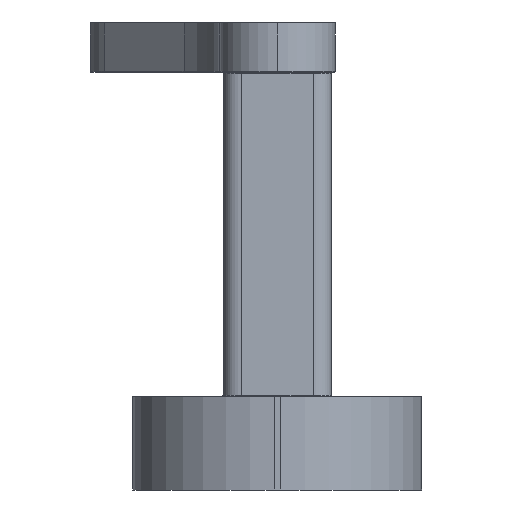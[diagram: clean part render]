
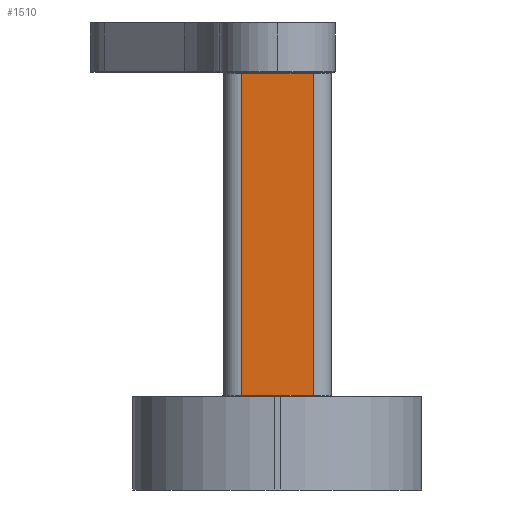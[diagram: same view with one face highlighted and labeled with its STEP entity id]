
A CAD part, left-side view. The second image highlights one B-rep face of the part: STEP entity #1510.
In plain terms, the highlighted planar face has unit normal (-1, 0, 0).
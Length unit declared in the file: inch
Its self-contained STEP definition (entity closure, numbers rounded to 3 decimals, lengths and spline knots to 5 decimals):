
#24 = CARTESIAN_POINT ( 'NONE',  ( -0.3937, -0.15453, 0.40945 ) ) ;
#315 = AXIS2_PLACEMENT_3D ( 'NONE', #1201, #1710, #2202 ) ;
#327 = CARTESIAN_POINT ( 'NONE',  ( -0.3937, -0.15453, 1.79921 ) ) ;
#461 = VECTOR ( 'NONE', #1719, 39.37008 ) ;
#533 = LINE ( 'NONE', #24, #968 ) ;
#558 = VERTEX_POINT ( 'NONE', #1492 ) ;
#590 = EDGE_CURVE ( 'NONE', #558, #1700, #1724, .T. ) ;
#619 = EDGE_LOOP ( 'NONE', ( #2100, #1651, #924, #1845 ) ) ;
#684 = LINE ( 'NONE', #1515, #1251 ) ;
#862 = CARTESIAN_POINT ( 'NONE',  ( -0.3937, -0.15453, 0.40945 ) ) ;
#873 = CARTESIAN_POINT ( 'NONE',  ( -0.3937, 0.15453, 0.40945 ) ) ;
#883 = DIRECTION ( 'NONE',  ( 0., -1., 0. ) ) ;
#924 = ORIENTED_EDGE ( 'NONE', *, *, #1690, .F. ) ;
#968 = VECTOR ( 'NONE', #883, 39.37008 ) ;
#1013 = DIRECTION ( 'NONE',  ( 0., 0., -1. ) ) ;
#1174 = FACE_OUTER_BOUND ( 'NONE', #619, .T. ) ;
#1201 = CARTESIAN_POINT ( 'NONE',  ( -0.3937, -0.15453, 1.80315 ) ) ;
#1207 = CARTESIAN_POINT ( 'NONE',  ( -0.3937, 0.15453, 1.80315 ) ) ;
#1251 = VECTOR ( 'NONE', #1335, 39.37008 ) ;
#1335 = DIRECTION ( 'NONE',  ( 0., 1., 0. ) ) ;
#1492 = CARTESIAN_POINT ( 'NONE',  ( -0.3937, 0.15453, 1.79921 ) ) ;
#1510 = ADVANCED_FACE ( 'NONE', ( #1174 ), #1672, .F. ) ;
#1515 = CARTESIAN_POINT ( 'NONE',  ( -0.3937, 0.15453, 1.79921 ) ) ;
#1599 = EDGE_CURVE ( 'NONE', #1628, #558, #684, .T. ) ;
#1628 = VERTEX_POINT ( 'NONE', #327 ) ;
#1651 = ORIENTED_EDGE ( 'NONE', *, *, #1768, .T. ) ;
#1672 = PLANE ( 'NONE',  #315 ) ;
#1680 = VERTEX_POINT ( 'NONE', #862 ) ;
#1690 = EDGE_CURVE ( 'NONE', #1628, #1680, #1889, .T. ) ;
#1700 = VERTEX_POINT ( 'NONE', #873 ) ;
#1710 = DIRECTION ( 'NONE',  ( 1., 0., 0. ) ) ;
#1719 = DIRECTION ( 'NONE',  ( 0., 0., -1. ) ) ;
#1724 = LINE ( 'NONE', #1207, #1894 ) ;
#1768 = EDGE_CURVE ( 'NONE', #1700, #1680, #533, .T. ) ;
#1845 = ORIENTED_EDGE ( 'NONE', *, *, #1599, .T. ) ;
#1889 = LINE ( 'NONE', #2081, #461 ) ;
#1894 = VECTOR ( 'NONE', #1013, 39.37008 ) ;
#2081 = CARTESIAN_POINT ( 'NONE',  ( -0.3937, -0.15453, 1.80315 ) ) ;
#2100 = ORIENTED_EDGE ( 'NONE', *, *, #590, .T. ) ;
#2202 = DIRECTION ( 'NONE',  ( 0., 1., 0. ) ) ;
